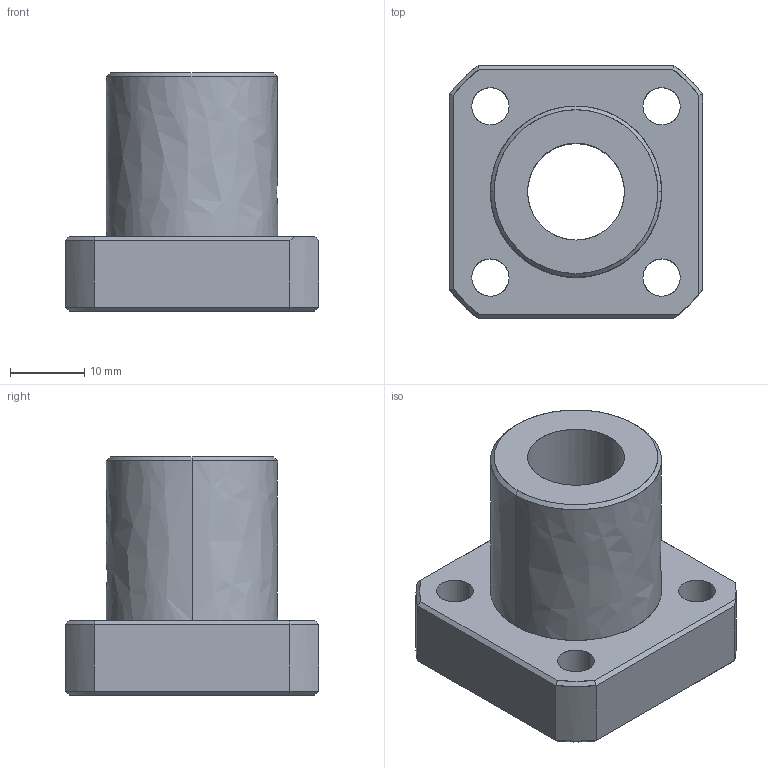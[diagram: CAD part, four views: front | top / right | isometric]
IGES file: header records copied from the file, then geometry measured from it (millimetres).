
Global section: file name: No Iges File Name specified; native system: AutoDesk Inventor R10; preprocessor: AutoDesk Inventor Iges Exporter R10; author: No Author specified; organization: No Organization specified; date: 20101214.154949; units: millimetre
Bounding box: 34 x 34 x 32 mm (x, y, z)
Surface area: 6554 mm2 (no closed solid volume)
Topology: 0 solids, 0 shells, 62 faces, 432 edges, 432 vertices
Faces by surface type: bspline 62
